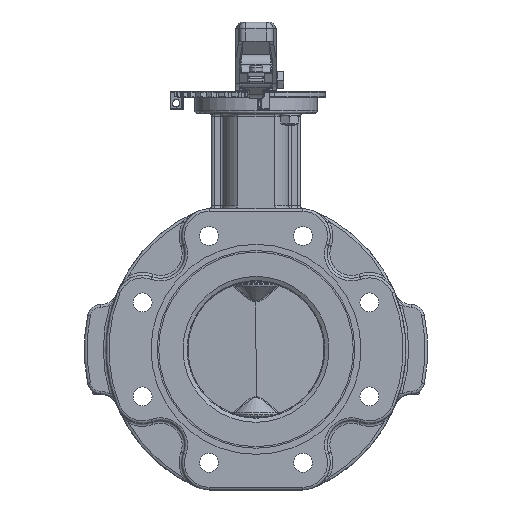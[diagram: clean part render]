
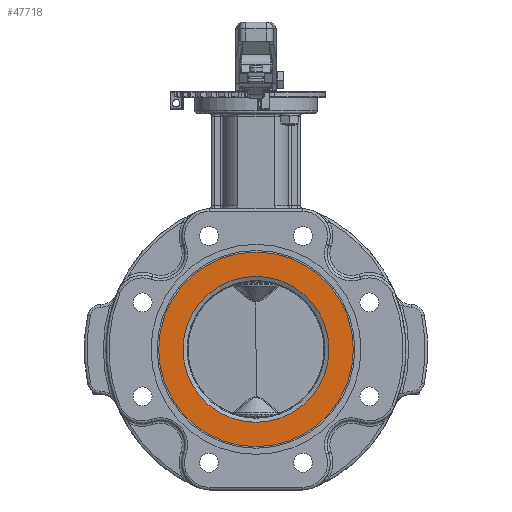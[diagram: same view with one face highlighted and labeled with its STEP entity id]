
A CAD part, left-side view. The second image highlights one B-rep face of the part: STEP entity #47718.
In plain terms, the highlighted planar face has unit normal (-1, 0, 0).
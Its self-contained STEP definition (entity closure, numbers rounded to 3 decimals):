
#47691=CARTESIAN_POINT('',(-26.1,-62.457,0.));
#47692=DIRECTION('',(-1.0,0.0,0.0));
#47693=DIRECTION('',(0.0,0.0,1.0));
#47694=AXIS2_PLACEMENT_3D('',#47691,#47692,#47693);
#47695=PLANE('',#47694);
#47696=CARTESIAN_POINT('',(-26.1,-71.4,0.));
#47697=VERTEX_POINT('',#47696);
#47698=CARTESIAN_POINT('',(-26.1,0.,0.));
#47699=DIRECTION('',(1.0,0.0,0.0));
#47700=DIRECTION('',(0.0,-1.0,0.0));
#47701=AXIS2_PLACEMENT_3D('',#47698,#47699,#47700);
#47702=CIRCLE('',#47701,71.4);
#47703=EDGE_CURVE('',#47697,#47697,#47702,.T.);
#47704=ORIENTED_EDGE('',*,*,#47703,.F.);
#47705=EDGE_LOOP('',(#47704));
#47706=FACE_OUTER_BOUND('',#47705,.T.);
#47707=CARTESIAN_POINT('',(-26.1,-53.514,0.));
#47708=VERTEX_POINT('',#47707);
#47709=CARTESIAN_POINT('',(-26.1,0.,0.));
#47710=DIRECTION('',(1.0,0.0,0.0));
#47711=DIRECTION('',(0.0,-1.0,0.0));
#47712=AXIS2_PLACEMENT_3D('',#47709,#47710,#47711);
#47713=CIRCLE('',#47712,53.514);
#47714=EDGE_CURVE('',#47708,#47708,#47713,.T.);
#47715=ORIENTED_EDGE('',*,*,#47714,.T.);
#47716=EDGE_LOOP('',(#47715));
#47717=FACE_BOUND('',#47716,.T.);
#47718=ADVANCED_FACE('',(#47706,#47717),#47695,.T.);
